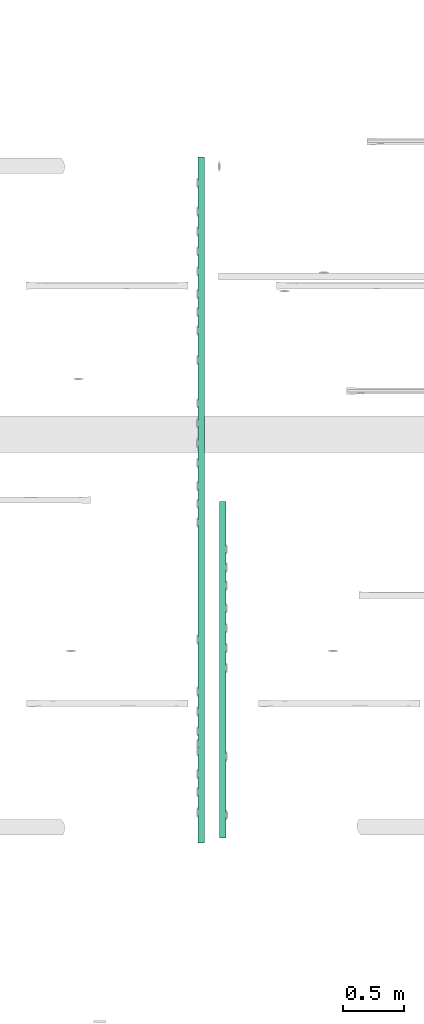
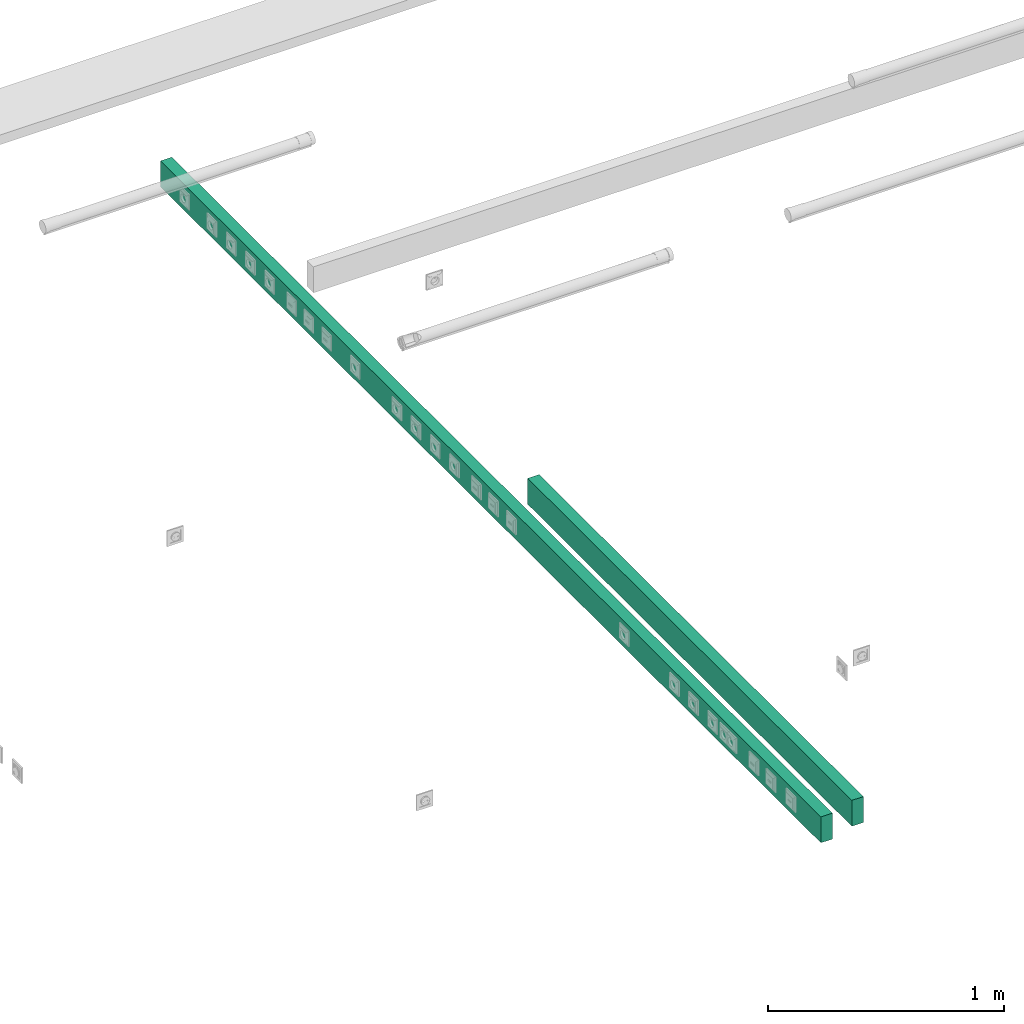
# One storey, part 11 of 166: 2 flow segments.
"""IFC2X3 building model written with IfcOpenShell, lengths in metres."""

from ifc_helpers import new_model, entity, si_unit, converted_unit, derived_unit, direction, frame, frame_2d, origin, origin_2d_with_axis, place, context, subcontext, project, spatial, rectangle, extrude, type_object, element, save


model = new_model("IFC2X3")

# Units and contexts
model_context = context("Model", 3, precision=1e-05, world=origin(), true_north=direction((6.12303176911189e-17, 1.0)))
body_context = subcontext(model_context, "Body", "Model", "MODEL_VIEW")
ifc_project = project(units=[si_unit("LENGTHUNIT", "METRE"), si_unit("AREAUNIT", "SQUARE_METRE"), si_unit("VOLUMEUNIT", "CUBIC_METRE"), converted_unit("PLANEANGLEUNIT", "DEGREE", entity("IfcRatioMeasure", 0.0174532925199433), si_unit("PLANEANGLEUNIT", "RADIAN"), dimensions=[0, 0, 0, 0, 0, 0, 0]), si_unit("MASSUNIT", "GRAM", prefix="KILO"), derived_unit("MASSDENSITYUNIT", [(si_unit("MASSUNIT", "GRAM", prefix="KILO"), 1), (si_unit("LENGTHUNIT", "METRE"), -3)]), si_unit("TIMEUNIT", "SECOND"), si_unit("FREQUENCYUNIT", "HERTZ"), si_unit("THERMODYNAMICTEMPERATUREUNIT", "DEGREE_CELSIUS"), derived_unit("THERMALTRANSMITTANCEUNIT", [(si_unit("MASSUNIT", "GRAM", prefix="KILO"), 1), (si_unit("THERMODYNAMICTEMPERATUREUNIT", "KELVIN"), -1), (si_unit("TIMEUNIT", "SECOND"), -3)]), derived_unit("VOLUMETRICFLOWRATEUNIT", [(si_unit("LENGTHUNIT", "METRE"), 3), (si_unit("TIMEUNIT", "SECOND"), -1)]), si_unit("ELECTRICCURRENTUNIT", "AMPERE"), si_unit("ELECTRICVOLTAGEUNIT", "VOLT"), si_unit("POWERUNIT", "WATT"), si_unit("FORCEUNIT", "NEWTON"), si_unit("ILLUMINANCEUNIT", "LUX"), si_unit("LUMINOUSFLUXUNIT", "LUMEN"), si_unit("LUMINOUSINTENSITYUNIT", "CANDELA"), derived_unit("USERDEFINED", [(si_unit("MASSUNIT", "GRAM", prefix="KILO"), -1), (si_unit("LENGTHUNIT", "METRE"), -2), (si_unit("TIMEUNIT", "SECOND"), 3), (si_unit("LUMINOUSFLUXUNIT", "LUMEN"), 1)]), derived_unit("LINEARVELOCITYUNIT", [(si_unit("LENGTHUNIT", "METRE"), 1), (si_unit("TIMEUNIT", "SECOND"), -1)]), si_unit("PRESSUREUNIT", "PASCAL"), derived_unit("USERDEFINED", [(si_unit("LENGTHUNIT", "METRE"), -2), (si_unit("MASSUNIT", "GRAM", prefix="KILO"), 1), (si_unit("TIMEUNIT", "SECOND"), -2)])], contexts=[model_context])

# Site, building, storey
site_placement = place(None, origin())
site = spatial("IfcSite", under=ifc_project, at=site_placement, Name="Default", CompositionType="ELEMENT")
building_placement = place(site_placement, origin())
building = spatial("IfcBuilding", under=site, at=building_placement, CompositionType="ELEMENT")
storey_placement = place(building_placement, frame((0.0, 0.0, 4.27)))
storey = spatial("IfcBuildingStorey", under=building, at=storey_placement, Name="01", CompositionType="ELEMENT", Elevation=4.27)

# Flow segments
cable_carrier_segment_type = type_object("IfcCableCarrierSegmentType", Name="Cable Tray with Fittings:Goulottes de câbles indéfini_Goulottes de câbles", PredefinedType="NOTDEFINED")
flow_segment_1_placement = place(storey_placement, origin())
element("IfcFlowSegment", 1, at=flow_segment_1_placement, inside=storey, type_object=cable_carrier_segment_type, Name="Cable Tray with Fittings:Goulottes de câbles indéfini_Goulottes de câbles", ObjectType="Cable Tray with Fittings:Goulottes de câbles indéfini_Goulottes de câbles", context=body_context, shape_type="SweptSolid", body=[
    extrude(rectangle(XDim=5.60000000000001, YDim=0.0560000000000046, at=frame_2d((-1.73194791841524e-14, 0.0), x_axis=(1.0, 0.0))), frame((53.4067436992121, -189.237069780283, 0.366), z_axis=(0.0, 0.0, 1.0), x_axis=(0.0, 1.0, 0.0)), (0.0, 0.0, 1.0), 0.134),
])
flow_segment_2_placement = place(storey_placement, origin())
element("IfcFlowSegment", 2, at=flow_segment_2_placement, inside=storey, type_object=cable_carrier_segment_type, Name="Cable Tray with Fittings:Goulottes de câbles indéfini_Goulottes de câbles", ObjectType="Cable Tray with Fittings:Goulottes de câbles indéfini_Goulottes de câbles", context=body_context, shape_type="SweptSolid", body=[
    extrude(rectangle(XDim=2.74900000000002, YDim=0.0560000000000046, at=origin_2d_with_axis()), frame((53.581743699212, -190.621936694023, 0.366), z_axis=(0.0, 0.0, 1.0), x_axis=(0.0, -1.0, 0.0)), (0.0, 0.0, 1.0), 0.134),
])

save(model, "model.ifc")
